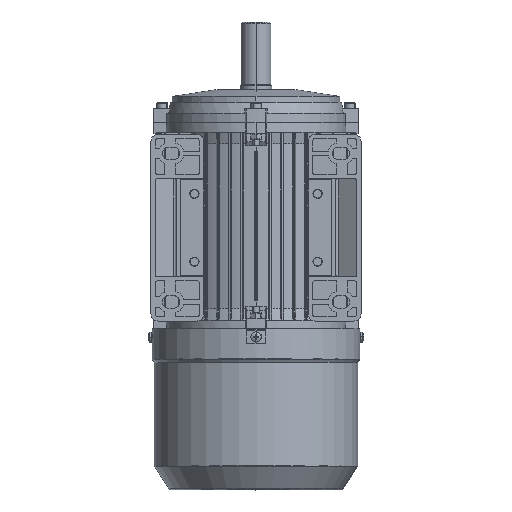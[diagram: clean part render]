
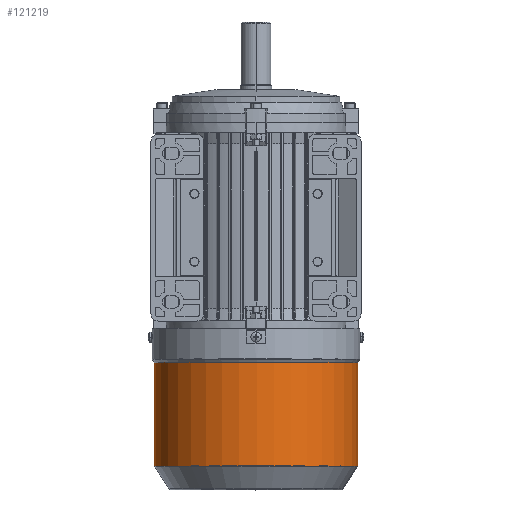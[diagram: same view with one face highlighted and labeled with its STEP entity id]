
A CAD part, top view. The second image highlights one B-rep face of the part: STEP entity #121219.
In plain terms, the highlighted cylindrical face has radius 95.75 mm (diameter 191.5 mm), a partial arc.
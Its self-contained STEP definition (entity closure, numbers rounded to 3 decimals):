
#300 = CARTESIAN_POINT ( 'NONE',  ( -89.622, -130.727, 0.515 ) ) ;
#1107 = EDGE_CURVE ( 'NONE', #117849, #59460, #42423, .T. ) ;
#7868 = LINE ( 'NONE', #48583, #111144 ) ;
#8059 = CARTESIAN_POINT ( 'NONE',  ( -89.622, -228.401, 0.515 ) ) ;
#8333 = CARTESIAN_POINT ( 'NONE',  ( 6.126, -228.401, 0. ) ) ;
#11171 = DIRECTION ( 'NONE',  ( 0., -1., 0. ) ) ;
#13001 = CIRCLE ( 'NONE', #41170, 95.75 ) ;
#13225 = CARTESIAN_POINT ( 'NONE',  ( -89.622, -248.647, 0.515 ) ) ;
#22437 = CARTESIAN_POINT ( 'NONE',  ( 6.126, -130.727, 0. ) ) ;
#24704 = EDGE_CURVE ( 'NONE', #75039, #37009, #7868, .T. ) ;
#25491 = VECTOR ( 'NONE', #85190, 1000. ) ;
#31219 = EDGE_CURVE ( 'NONE', #37009, #59460, #13001, .T. ) ;
#37009 = VERTEX_POINT ( 'NONE', #100234 ) ;
#41170 = AXIS2_PLACEMENT_3D ( 'NONE', #8333, #130532, #131894 ) ;
#42423 = LINE ( 'NONE', #13225, #25491 ) ;
#43792 = CARTESIAN_POINT ( 'NONE',  ( 101.875, -130.727, -0.515 ) ) ;
#45031 = ORIENTED_EDGE ( 'NONE', *, *, #31219, .F. ) ;
#48583 = CARTESIAN_POINT ( 'NONE',  ( 101.875, -248.647, -0.515 ) ) ;
#50731 = CIRCLE ( 'NONE', #96284, 95.75 ) ;
#52779 = EDGE_CURVE ( 'NONE', #75039, #117849, #50731, .T. ) ;
#59460 = VERTEX_POINT ( 'NONE', #8059 ) ;
#69619 = DIRECTION ( 'NONE',  ( 0., -1., 0. ) ) ;
#70449 = FACE_OUTER_BOUND ( 'NONE', #101737, .T. ) ;
#74262 = DIRECTION ( 'NONE',  ( 1., 0., -0.005 ) ) ;
#75039 = VERTEX_POINT ( 'NONE', #43792 ) ;
#85190 = DIRECTION ( 'NONE',  ( 0., -1., 0. ) ) ;
#93327 = CYLINDRICAL_SURFACE ( 'NONE', #122862, 95.75 ) ;
#93632 = ORIENTED_EDGE ( 'NONE', *, *, #52779, .T. ) ;
#96284 = AXIS2_PLACEMENT_3D ( 'NONE', #22437, #126296, #127639 ) ;
#100234 = CARTESIAN_POINT ( 'NONE',  ( 101.875, -228.401, -0.515 ) ) ;
#101737 = EDGE_LOOP ( 'NONE', ( #93632, #111866, #45031, #115966 ) ) ;
#111144 = VECTOR ( 'NONE', #69619, 1000. ) ;
#111866 = ORIENTED_EDGE ( 'NONE', *, *, #1107, .T. ) ;
#113687 = CARTESIAN_POINT ( 'NONE',  ( 6.126, -248.647, 0. ) ) ;
#115966 = ORIENTED_EDGE ( 'NONE', *, *, #24704, .F. ) ;
#117849 = VERTEX_POINT ( 'NONE', #300 ) ;
#121219 = ADVANCED_FACE ( 'NONE', ( #70449 ), #93327, .T. ) ;
#122862 = AXIS2_PLACEMENT_3D ( 'NONE', #113687, #11171, #74262 ) ;
#126296 = DIRECTION ( 'NONE',  ( 0., -1., 0. ) ) ;
#127639 = DIRECTION ( 'NONE',  ( 1., 0., -0.005 ) ) ;
#130532 = DIRECTION ( 'NONE',  ( 0., -1., 0. ) ) ;
#131894 = DIRECTION ( 'NONE',  ( 1., 0., -0.005 ) ) ;
